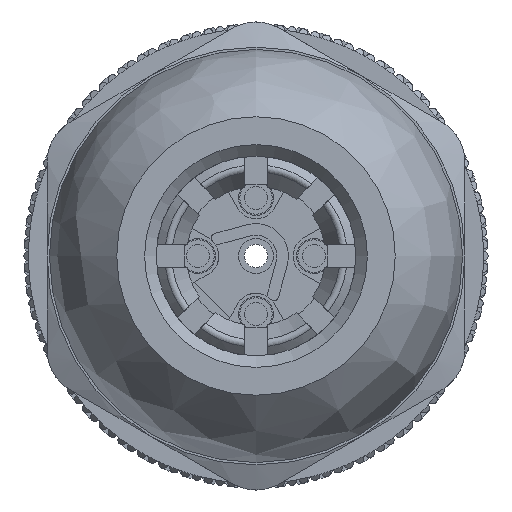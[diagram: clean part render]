
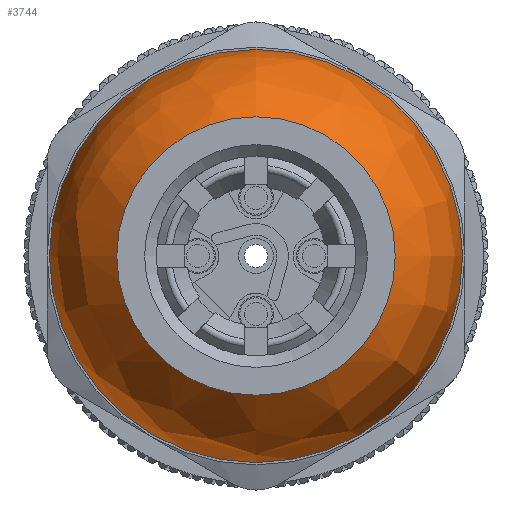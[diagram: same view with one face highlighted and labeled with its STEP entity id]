
A CAD part, front view. The second image highlights one B-rep face of the part: STEP entity #3744.
In plain terms, the highlighted free-form (B-spline) face has degree [3, 3] with [4, 7] control points.
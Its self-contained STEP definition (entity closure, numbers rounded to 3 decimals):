
#149=(
BOUNDED_SURFACE()
B_SPLINE_SURFACE(3,3,((#47377,#47378,#47379,#47380,#47381,#47382,#47383),
(#47384,#47385,#47386,#47387,#47388,#47389,#47390),(#47391,#47392,#47393,
#47394,#47395,#47396,#47397),(#47398,#47399,#47400,#47401,#47402,#47403,
#47404)),.UNSPECIFIED.,.F.,.T.,.F.)
B_SPLINE_SURFACE_WITH_KNOTS((4,4),(1,3,3,3,1),(0.,1.),(-0.5,0.,0.5,1.,1.5),
 .UNSPECIFIED.)
GEOMETRIC_REPRESENTATION_ITEM()
RATIONAL_B_SPLINE_SURFACE(((1.,0.333,0.333,1.,0.333,
0.333,1.),(0.923,0.308,0.308,
0.923,0.308,0.308,0.923),
(0.923,0.308,0.308,0.923,
0.308,0.308,0.923),(1.,0.333,
0.333,1.,0.333,0.333,1.)))
REPRESENTATION_ITEM('')
SURFACE()
);
#3744=ADVANCED_FACE('',(#4679,#4680),#149,.T.);
#4679=FACE_BOUND('',#6023,.T.);
#4680=FACE_BOUND('',#6024,.T.);
#6023=EDGE_LOOP('',(#13324));
#6024=EDGE_LOOP('',(#13325));
#13324=ORIENTED_EDGE('',*,*,#18537,.F.);
#13325=ORIENTED_EDGE('',*,*,#18538,.T.);
#15793=VERTEX_POINT('',#47373);
#15794=VERTEX_POINT('',#47376);
#18537=EDGE_CURVE('',#15793,#15793,#20024,.T.);
#18538=EDGE_CURVE('',#15794,#15794,#20025,.T.);
#20024=CIRCLE('',#22239,8.9);
#20025=CIRCLE('',#22241,6.);
#22239=AXIS2_PLACEMENT_3D('',#47372,#27692,#27693);
#22241=AXIS2_PLACEMENT_3D('',#47375,#27696,#27697);
#27692=DIRECTION('',(0.,1.,0.));
#27693=DIRECTION('',(0.,0.,1.));
#27696=DIRECTION('',(0.,1.,0.));
#27697=DIRECTION('',(0.,0.,1.));
#47372=CARTESIAN_POINT('',(0.,-49.,0.));
#47373=CARTESIAN_POINT('',(0.,-49.,8.9));
#47375=CARTESIAN_POINT('',(0.,-54.5,0.));
#47376=CARTESIAN_POINT('',(0.,-54.5,6.));
#47377=CARTESIAN_POINT('',(-8.9,-49.,0.));
#47378=CARTESIAN_POINT('',(-8.9,-49.,17.8));
#47379=CARTESIAN_POINT('',(8.9,-49.,17.8));
#47380=CARTESIAN_POINT('',(8.9,-49.,0.));
#47381=CARTESIAN_POINT('',(8.9,-49.,-17.8));
#47382=CARTESIAN_POINT('',(-8.9,-49.,-17.8));
#47383=CARTESIAN_POINT('',(-8.9,-49.,0.));
#47384=CARTESIAN_POINT('',(-8.9,-51.245,0.));
#47385=CARTESIAN_POINT('',(-8.9,-51.245,17.8));
#47386=CARTESIAN_POINT('',(8.9,-51.245,17.8));
#47387=CARTESIAN_POINT('',(8.9,-51.245,0.));
#47388=CARTESIAN_POINT('',(8.9,-51.245,-17.8));
#47389=CARTESIAN_POINT('',(-8.9,-51.245,-17.8));
#47390=CARTESIAN_POINT('',(-8.9,-51.245,0.));
#47391=CARTESIAN_POINT('',(-7.853,-53.232,0.));
#47392=CARTESIAN_POINT('',(-7.853,-53.232,15.706));
#47393=CARTESIAN_POINT('',(7.853,-53.232,15.706));
#47394=CARTESIAN_POINT('',(7.853,-53.232,0.));
#47395=CARTESIAN_POINT('',(7.853,-53.232,-15.705));
#47396=CARTESIAN_POINT('',(-7.853,-53.232,-15.705));
#47397=CARTESIAN_POINT('',(-7.853,-53.232,0.));
#47398=CARTESIAN_POINT('',(-6.,-54.5,0.));
#47399=CARTESIAN_POINT('',(-6.,-54.5,12.));
#47400=CARTESIAN_POINT('',(6.,-54.5,12.));
#47401=CARTESIAN_POINT('',(6.,-54.5,0.));
#47402=CARTESIAN_POINT('',(6.,-54.5,-12.));
#47403=CARTESIAN_POINT('',(-6.,-54.5,-12.));
#47404=CARTESIAN_POINT('',(-6.,-54.5,0.));
